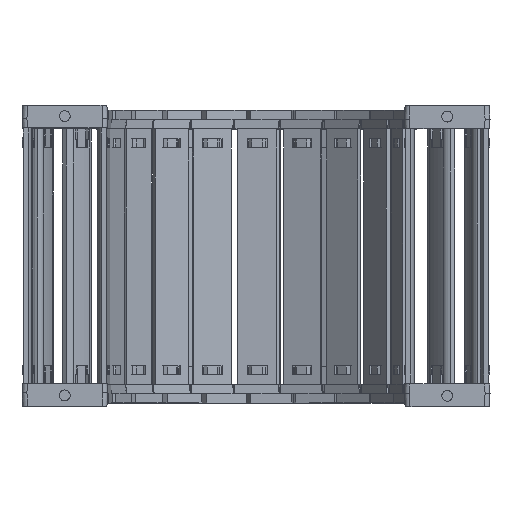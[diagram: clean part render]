
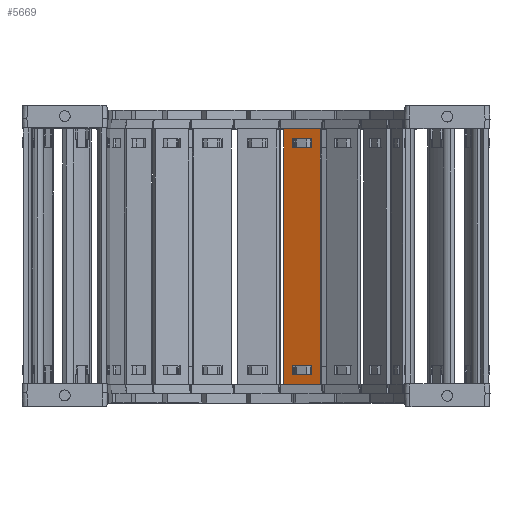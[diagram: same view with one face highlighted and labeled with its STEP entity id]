
A CAD part, top view. The second image highlights one B-rep face of the part: STEP entity #5669.
In plain terms, the highlighted planar face has unit normal (-0.342, 0, 0.94) as drawn and (0, 1, 0) by its records, which use the part's own axes.
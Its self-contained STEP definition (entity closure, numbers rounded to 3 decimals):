
#5089=DIRECTION('',(0.,0.,1.));
#5090=VECTOR('',#5089,15.8);
#5091=CARTESIAN_POINT('',(88.74,1.5,-7.9));
#5092=LINE('',#5091,#5090);
#5093=DIRECTION('',(-1.,0.,0.));
#5094=VECTOR('',#5093,103.5);
#5095=CARTESIAN_POINT('',(88.74,1.5,7.9));
#5096=LINE('',#5095,#5094);
#5097=DIRECTION('',(0.,0.,-1.));
#5098=VECTOR('',#5097,15.8);
#5099=CARTESIAN_POINT('',(-14.76,1.5,7.9));
#5100=LINE('',#5099,#5098);
#5101=DIRECTION('',(1.,0.,0.));
#5102=VECTOR('',#5101,3.648);
#5103=CARTESIAN_POINT('',(81.122,1.5,4.075));
#5104=LINE('',#5103,#5102);
#5105=DIRECTION('',(0.,0.,-1.));
#5106=VECTOR('',#5105,8.15);
#5107=CARTESIAN_POINT('',(84.77,1.5,4.075));
#5108=LINE('',#5107,#5106);
#5109=DIRECTION('',(-1.,0.,0.));
#5110=VECTOR('',#5109,3.648);
#5111=CARTESIAN_POINT('',(84.77,1.5,-4.075));
#5112=LINE('',#5111,#5110);
#5113=DIRECTION('',(0.,0.,-1.));
#5114=VECTOR('',#5113,8.15);
#5115=CARTESIAN_POINT('',(-7.142,1.5,4.075));
#5116=LINE('',#5115,#5114);
#5117=DIRECTION('',(-1.,0.,0.));
#5118=VECTOR('',#5117,3.648);
#5119=CARTESIAN_POINT('',(-7.142,1.5,-4.075));
#5120=LINE('',#5119,#5118);
#5121=DIRECTION('',(0.,0.,1.));
#5122=VECTOR('',#5121,8.15);
#5123=CARTESIAN_POINT('',(-10.79,1.5,-4.075));
#5124=LINE('',#5123,#5122);
#5125=DIRECTION('',(1.,0.,0.));
#5126=VECTOR('',#5125,3.648);
#5127=CARTESIAN_POINT('',(-10.79,1.5,4.075));
#5128=LINE('',#5127,#5126);
#5133=DIRECTION('',(-1.,0.,0.));
#5134=VECTOR('',#5133,103.5);
#5135=CARTESIAN_POINT('',(88.74,1.5,-7.9));
#5136=LINE('',#5135,#5134);
#5254=DIRECTION('',(0.,0.,-1.));
#5255=VECTOR('',#5254,8.15);
#5256=CARTESIAN_POINT('',(81.122,1.5,4.075));
#5257=LINE('',#5256,#5255);
#5439=CARTESIAN_POINT('',(84.77,1.5,4.075));
#5440=VERTEX_POINT('',#5439);
#5441=CARTESIAN_POINT('',(81.122,1.5,4.075));
#5442=VERTEX_POINT('',#5441);
#5483=CARTESIAN_POINT('',(81.122,1.5,-4.075));
#5484=VERTEX_POINT('',#5483);
#5485=CARTESIAN_POINT('',(84.77,1.5,-4.075));
#5486=VERTEX_POINT('',#5485);
#5487=CARTESIAN_POINT('',(88.74,1.5,7.9));
#5489=VERTEX_POINT('',#5487);
#5491=CARTESIAN_POINT('',(88.74,1.5,-7.9));
#5492=VERTEX_POINT('',#5491);
#5515=CARTESIAN_POINT('',(-7.142,1.5,4.075));
#5516=CARTESIAN_POINT('',(-7.142,1.5,-4.075));
#5517=VERTEX_POINT('',#5515);
#5518=VERTEX_POINT('',#5516);
#5519=CARTESIAN_POINT('',(-10.79,1.5,-4.075));
#5520=VERTEX_POINT('',#5519);
#5521=CARTESIAN_POINT('',(-10.79,1.5,4.075));
#5522=VERTEX_POINT('',#5521);
#5523=CARTESIAN_POINT('',(-14.76,1.5,7.9));
#5524=VERTEX_POINT('',#5523);
#5527=CARTESIAN_POINT('',(-14.76,1.5,-7.9));
#5528=VERTEX_POINT('',#5527);
#5638=CARTESIAN_POINT('',(120.48,1.5,10.061));
#5639=DIRECTION('',(0.,-1.,0.));
#5640=DIRECTION('',(0.,0.,-1.));
#5641=AXIS2_PLACEMENT_3D('',#5638,#5639,#5640);
#5642=PLANE('',#5641);
#5643=ORIENTED_EDGE('',*,*,#5577,.T.);
#5644=ORIENTED_EDGE('',*,*,#5603,.T.);
#5645=ORIENTED_EDGE('',*,*,#5616,.T.);
#5647=ORIENTED_EDGE('',*,*,#5646,.F.);
#5648=EDGE_LOOP('',(#5643,#5644,#5645,#5647));
#5649=FACE_OUTER_BOUND('',#5648,.F.);
#5651=ORIENTED_EDGE('',*,*,#5650,.F.);
#5652=ORIENTED_EDGE('',*,*,#5540,.T.);
#5654=ORIENTED_EDGE('',*,*,#5653,.T.);
#5656=ORIENTED_EDGE('',*,*,#5655,.T.);
#5657=EDGE_LOOP('',(#5651,#5652,#5654,#5656));
#5658=FACE_BOUND('',#5657,.F.);
#5660=ORIENTED_EDGE('',*,*,#5659,.T.);
#5662=ORIENTED_EDGE('',*,*,#5661,.T.);
#5664=ORIENTED_EDGE('',*,*,#5663,.T.);
#5666=ORIENTED_EDGE('',*,*,#5665,.T.);
#5667=EDGE_LOOP('',(#5660,#5662,#5664,#5666));
#5668=FACE_BOUND('',#5667,.F.);
#5669=ADVANCED_FACE('',(#5649,#5658,#5668),#5642,.F.);
#5540=EDGE_CURVE('',#5442,#5440,#5104,.T.);
#5577=EDGE_CURVE('',#5492,#5489,#5092,.T.);
#5603=EDGE_CURVE('',#5489,#5524,#5096,.T.);
#5616=EDGE_CURVE('',#5524,#5528,#5100,.T.);
#5646=EDGE_CURVE('',#5492,#5528,#5136,.T.);
#5650=EDGE_CURVE('',#5442,#5484,#5257,.T.);
#5653=EDGE_CURVE('',#5440,#5486,#5108,.T.);
#5655=EDGE_CURVE('',#5486,#5484,#5112,.T.);
#5659=EDGE_CURVE('',#5517,#5518,#5116,.T.);
#5661=EDGE_CURVE('',#5518,#5520,#5120,.T.);
#5663=EDGE_CURVE('',#5520,#5522,#5124,.T.);
#5665=EDGE_CURVE('',#5522,#5517,#5128,.T.);
